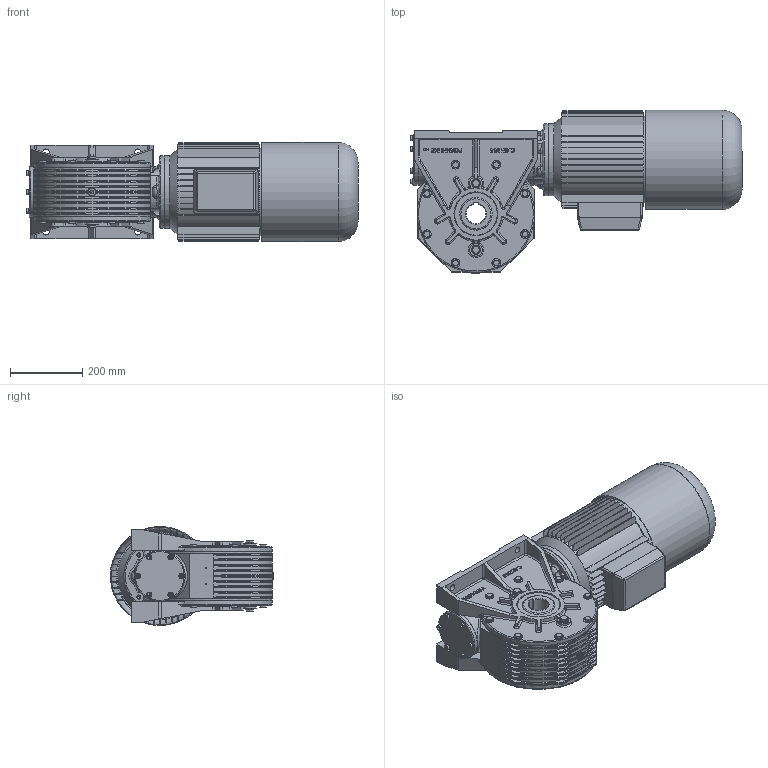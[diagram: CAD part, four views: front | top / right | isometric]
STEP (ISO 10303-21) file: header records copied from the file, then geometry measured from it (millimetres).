
FILE_DESCRIPTION((''),'2;1');
FILE_NAME('Y:\Archivi Inventor\Prog_01\GRAND_70\complessivi\Figurini\mrv70 sito\132m autofrenante\MRV70_P1_132m_B14.stp','2013-02-08T15:23:59',('tech3'),(''),'Autodesk Inventor 2013','Autodesk Inventor 2013','');
FILE_SCHEMA(('AUTOMOTIVE_DESIGN { 1 0 10303 214 1 1 1 1 }'));
Length unit declared in the file: millimetre
Products named in the file (17): MRV70_132S_132M_B14; MRV70 figurino; 0107001-A0 figurino; 0107008.A0 figurino; 0107010.A0 figurino; 0107029; 0107009; 0107028; DIN 3760 AS AS - 90 x 120 x 12 - NBR; UNI 8839 A 8; Guarnizione 3_8 GAS; Tappo 3_8 GAS_esagn_incsst; DIN EN ISO 4762 M8 x 20; DIN EN 24017 M10 x 20; Tappo3_8 GAS; 0107006; motori B14 brake 132M
Assembly tree (60 placements, depth 3):
  MRV70_132S_132M_B14
    MRV70 figurino
      0107001-A0 figurino
      0107008.A0 figurino
      0107010.A0 figurino  x2
      0107029  x2
      0107009
      0107028  x2
      DIN 3760 AS AS - 90 x 120 x 12 - NBR  x2
      UNI 8839 A 8  x6
      Guarnizione 3_8 GAS  x6
      Tappo 3_8 GAS_esagn_incsst  x2
      DIN EN ISO 4762 M8 x 20  x6
      DIN EN 24017 M10 x 20  x16
      Tappo3_8 GAS  x4
    0107006
    DIN EN ISO 4762 M8 x 20  x6
    motori B14 brake 132M
Bounding box: 921.4 x 453.49 x 274.99 mm (x, y, z)
Volume: 31983616.3 mm3; surface area: 2756554.9 mm2
Topology: 60 solids, 60 shells, 2971 faces, 7397 edges, 4586 vertices
Faces by surface type: plane 1228, cylinder 675, bspline 643, cone 225, torus 192, sphere 8
Full cylindrical faces by diameter (mm): 2 x2, 5 x1, 6.647 x12, 8 x14, 8.376 x20, 8.5 x24, 10 x16, 10.5 x16, 11 x16, 11.5 x4, 13 x12, 13.046 x4, 14.63 x16, 14.95 x6, 16.3 x6, 16.5 x2, 18 x4, 20 x6, 22 x12, 24 x18, 25 x4, 38 x1, 61 x1, 75 x1, 90 x4, 97.2 x2, 100 x6, 114 x2, 120 x4, 130 x1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
Entity records: 66415 total; most frequent: CARTESIAN_POINT 24032, ORIENTED_EDGE 8662, DIRECTION 7934, EDGE_CURVE 4331, AXIS2_PLACEMENT_3D 3021, VERTEX_POINT 2806, EDGE_LOOP 2215, VECTOR 1892
